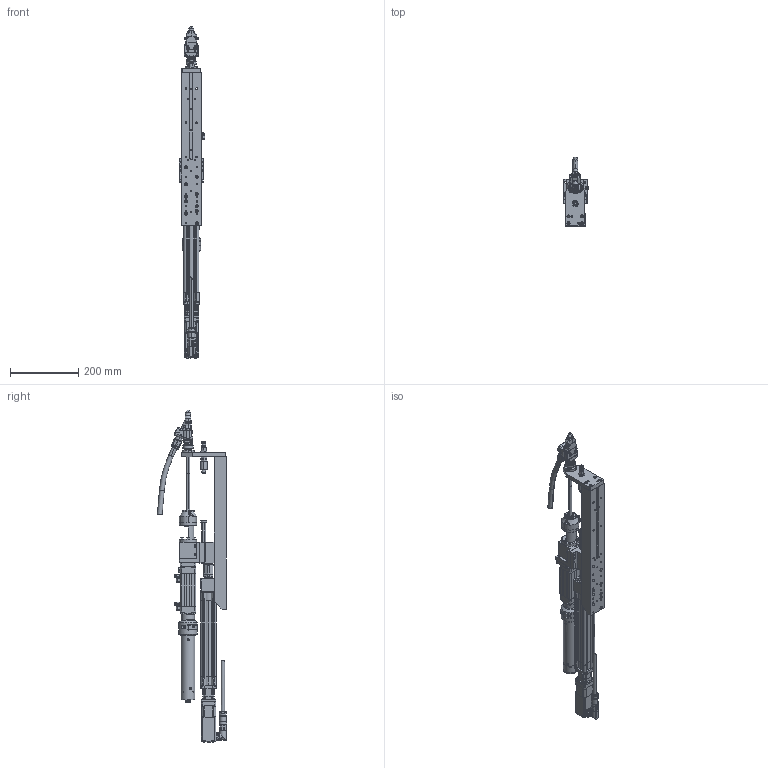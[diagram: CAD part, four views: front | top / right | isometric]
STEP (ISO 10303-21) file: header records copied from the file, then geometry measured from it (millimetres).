
FILE_DESCRIPTION (( 'STEP AP214' ), '1' );
FILE_NAME ('SVE-VT-AA.STEP', '2026-02-03T09:55:10', ( '' ), ( '' ), 'SwSTEP 2.0', 'SolidWorks 2022', '' );
FILE_SCHEMA (( 'AUTOMOTIVE_DESIGN' ));
Length unit declared in the file: millimetre
Products named in the file (1): SVE-VT-AA
Bounding box: 73.8 x 202.97 x 971 mm (x, y, z)
Surface area: 487400.8 mm2 (no closed solid volume)
Topology: 0 solids, 277 shells, 2392 faces, 8752 edges, 6430 vertices
Faces by surface type: plane 992, cylinder 909, cone 354, bspline 109, torus 24, sphere 4
Entity records: 135008 total; most frequent: CARTESIAN_POINT 35489, DIRECTION 15448, ORIENTED_EDGE 13398, EDGE_CURVE 8715, VERTEX_POINT 6425, AXIS2_PLACEMENT_3D 5683, LINE 4082, VECTOR 4082
